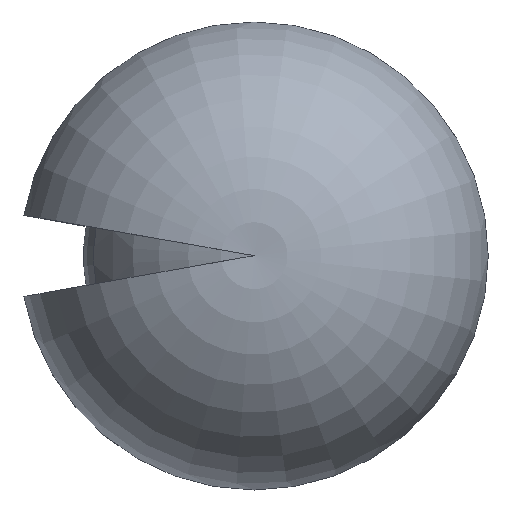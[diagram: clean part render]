
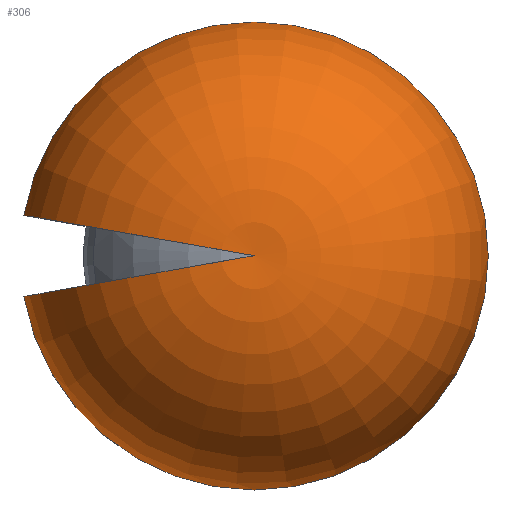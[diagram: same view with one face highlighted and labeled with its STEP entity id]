
A CAD part, top view. The second image highlights one B-rep face of the part: STEP entity #306.
In plain terms, the highlighted toroidal (fillet/blend) face has major radius 350 mm and minor radius 2651.59 mm.
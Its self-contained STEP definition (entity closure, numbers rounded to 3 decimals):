
#2 = DIRECTION ( 'NONE',  ( 0.174, 0.985, 0. ) ) ;
#6 = EDGE_CURVE ( 'NONE', #44, #167, #141, .T. ) ;
#10 = DIRECTION ( 'NONE',  ( 0.985, 0.174, 0. ) ) ;
#17 = VERTEX_POINT ( 'NONE', #263 ) ;
#24 = TOROIDAL_SURFACE ( 'NONE', #300, 350., 2651.589 ) ;
#44 = VERTEX_POINT ( 'NONE', #209 ) ;
#51 = AXIS2_PLACEMENT_3D ( 'NONE', #281, #155, #81 ) ;
#52 = CARTESIAN_POINT ( 'NONE',  ( -344.683, 60.777, 780. ) ) ;
#75 = DIRECTION ( 'NONE',  ( 0.985, -0.174, 0. ) ) ;
#81 = DIRECTION ( 'NONE',  ( 0., 1., 0. ) ) ;
#86 = AXIS2_PLACEMENT_3D ( 'NONE', #52, #2, #75 ) ;
#141 = CIRCLE ( 'NONE', #147, 2651.589 ) ;
#143 = ORIENTED_EDGE ( 'NONE', *, *, #288, .T. ) ;
#147 = AXIS2_PLACEMENT_3D ( 'NONE', #283, #262, #10 ) ;
#150 = DIRECTION ( 'NONE',  ( 0., 1., 0. ) ) ;
#155 = DIRECTION ( 'NONE',  ( 0., 0., -1. ) ) ;
#163 = EDGE_CURVE ( 'NONE', #17, #44, #191, .T. ) ;
#167 = VERTEX_POINT ( 'NONE', #223 ) ;
#183 = FACE_OUTER_BOUND ( 'NONE', #214, .T. ) ;
#186 = CIRCLE ( 'NONE', #86, 2651.589 ) ;
#191 = CIRCLE ( 'NONE', #51, 2991.499 ) ;
#195 = DIRECTION ( 'NONE',  ( 0., 0., -1. ) ) ;
#197 = CARTESIAN_POINT ( 'NONE',  ( 0., 0., 780. ) ) ;
#209 = CARTESIAN_POINT ( 'NONE',  ( -2946.051, -519.468, 1011.101 ) ) ;
#214 = EDGE_LOOP ( 'NONE', ( #240, #312, #143 ) ) ;
#223 = CARTESIAN_POINT ( 'NONE',  ( 0., 0., 3408.388 ) ) ;
#240 = ORIENTED_EDGE ( 'NONE', *, *, #6, .F. ) ;
#262 = DIRECTION ( 'NONE',  ( -0.174, 0.985, 0. ) ) ;
#263 = CARTESIAN_POINT ( 'NONE',  ( -2946.051, 519.468, 1011.101 ) ) ;
#281 = CARTESIAN_POINT ( 'NONE',  ( 0., 0., 1011.101 ) ) ;
#283 = CARTESIAN_POINT ( 'NONE',  ( -344.683, -60.777, 780. ) ) ;
#288 = EDGE_CURVE ( 'NONE', #17, #167, #186, .T. ) ;
#300 = AXIS2_PLACEMENT_3D ( 'NONE', #197, #195, #150 ) ;
#306 = ADVANCED_FACE ( 'NONE', ( #183 ), #24, .T. ) ;
#312 = ORIENTED_EDGE ( 'NONE', *, *, #163, .F. ) ;
